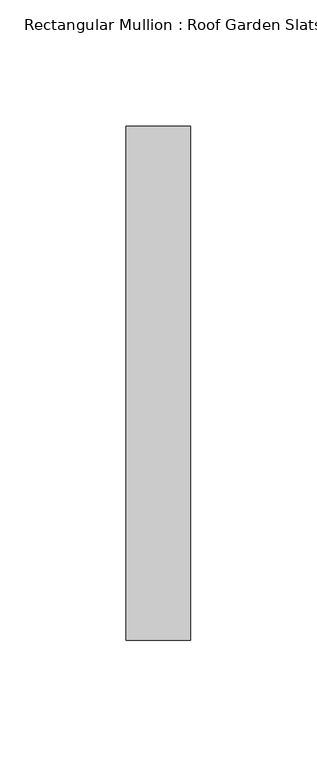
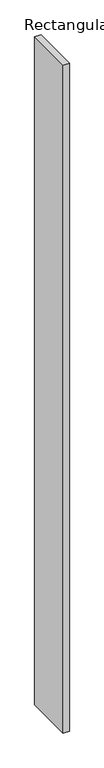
"""IFC4 building model written with IfcOpenShell, lengths in millimetres: member geometry, Rectangular Mullion : Roof Garden Slats."""

from ifc_helpers import new_model, si_unit, frame, origin, place, context, project, spatial, polyline, outline, extrude, source, transform, mapped, element, save


def rectangular_mullion_roof_garden_slats_d48197b5(model_context):
    return source(origin(), model_context, "Body", "SweptSolid", [
        extrude(outline(polyline([(12.7, 139.7), (12.7, -63.5), (-12.7, -63.5), (-12.7, 139.7), (12.7, 139.7)])), frame((0.0, 0.0, -2911.8133078), z_axis=(0.0, 0.0, 1.0), x_axis=(1.0, 0.0, 0.0)), (0.0, 0.0, 1.0), 2911.8133078),
    ])


if __name__ == "__main__":
    model = new_model("IFC4")
    model_context = context("Model", 3, world=origin())
    ifc_project = project(units=[si_unit("LENGTHUNIT", "METRE", prefix="MILLI")], contexts=[model_context])
    site = spatial("IfcSite", under=ifc_project)
    building = spatial("IfcBuilding", under=site)
    placement = place(None, origin())
    rectangular_mullion_roof_garden_slats_shape = rectangular_mullion_roof_garden_slats_d48197b5(model_context)
    element("IfcMember", 1, ObjectType="Rectangular Mullion : Roof Garden Slats", at=placement, inside=building, context=model_context, shape_type="MappedRepresentation", body=[
        mapped(rectangular_mullion_roof_garden_slats_shape, transform((0.0, 0.0, 0.0), x_axis=(1.0, 0.0, 0.0), y_axis=(0.0, 1.0, 0.0), z_axis=(0.0, 0.0, 1.0))),
    ])
    save(model, "model.ifc")
